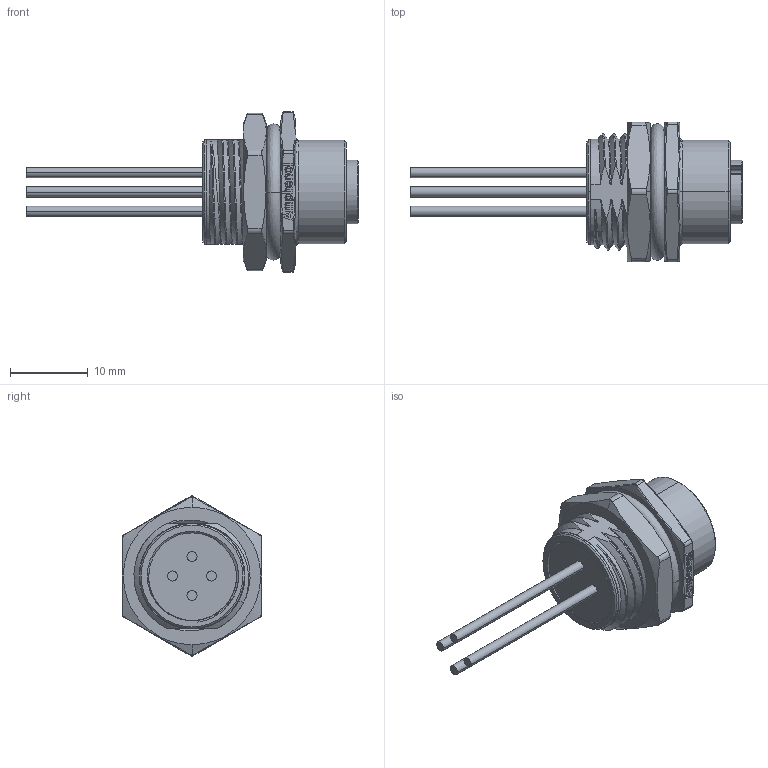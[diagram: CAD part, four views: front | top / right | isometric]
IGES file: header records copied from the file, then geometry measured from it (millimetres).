
Start section:  PTC IGES file: M12A-04PFFC-SH8BXX.igs
Global section: file name: M12A-04PFFC-SH8BXX.igs; native system: Creo Parametric by Parametric Technology Corporation; preprocessor: 2013050; author: KS6143; organization: Unknown; date: 20150915.181829; units: millimetre
Bounding box: 42.8 x 18 x 20.63 mm (x, y, z)
Volume: 3280.3 mm3; surface area: 3868.8 mm2
Topology: 2 solids, 2 shells, 740 faces, 1959 edges, 1263 vertices
Faces by surface type: bspline 391, revolution 205, extrusion 144
